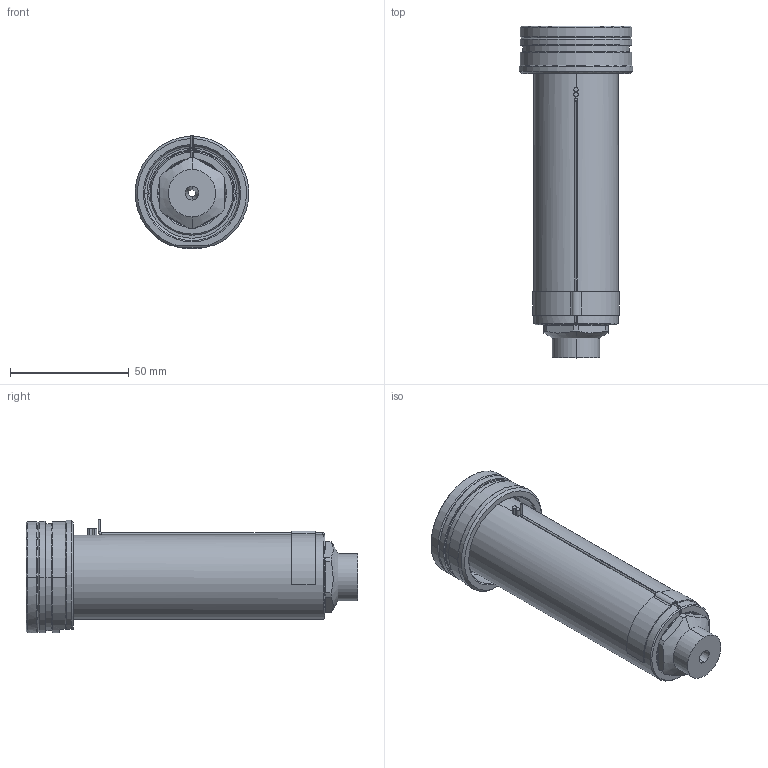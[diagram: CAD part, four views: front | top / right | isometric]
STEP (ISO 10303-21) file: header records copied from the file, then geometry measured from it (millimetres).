
FILE_DESCRIPTION((''),'2;1');
FILE_NAME('EO16_SG_SG_120_SW','2024-02-19T12:32:51',('sundharh'),(''),'CREO PARAMETRIC BY PTC INC, 2023154','CREO PARAMETRIC BY PTC INC, 2023154','');
FILE_SCHEMA(('CONFIG_CONTROL_DESIGN'));
Length unit declared in the file: millimetre
Products named in the file (1): EO16_SG_SG_120_SW
Bounding box: 47.97 x 140 x 48 mm (x, y, z)
Volume: 117067.3 mm3; surface area: 29906.9 mm2
Topology: 1 solids, 1 shells, 164 faces, 410 edges, 252 vertices
Faces by surface type: cylinder 64, plane 45, cone 31, torus 14, bspline 7, sphere 3
Entity records: 5623 total; most frequent: CARTESIAN_POINT 1632, DIRECTION 884, ORIENTED_EDGE 804, EDGE_CURVE 402, AXIS2_PLACEMENT_3D 365, VERTEX_POINT 252, CIRCLE 208, EDGE_LOOP 180
